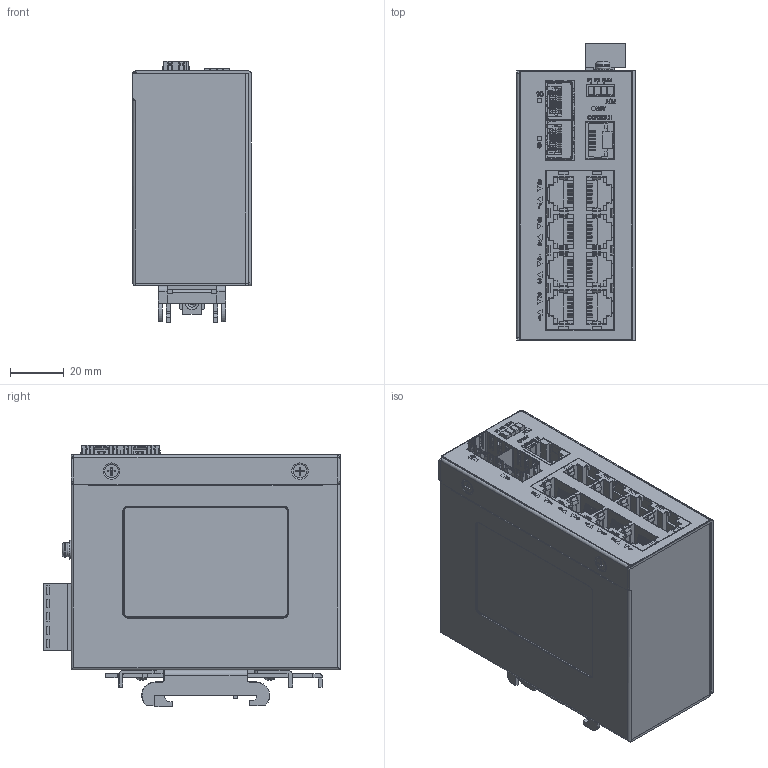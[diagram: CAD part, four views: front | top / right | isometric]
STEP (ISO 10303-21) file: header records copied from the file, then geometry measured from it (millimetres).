
FILE_DESCRIPTION(/* description */ (''),/* implementation_level */ '2;1');
FILE_NAME(/* name */ 'SFP2_ETH8_MGT_3D-STEP.stp',/* time_stamp */ '2026-06-05T10:18:42+08:00',/* author */ ('laozh'),/* organization */ (''),/* preprocessor_version */ 'ST-DEVELOPER v20.1',/* originating_system */ 'Autodesk Inventor 2026',/* authorisation */ '');
FILE_SCHEMA (('AUTOMOTIVE_DESIGN { 1 0 10303 214 3 1 1 }'));
Products named in the file (1): SFP2_ETH8_MGT_简化_1
Bounding box: 44 x 110.2 x 97.28 mm (x, y, z)
Volume: 74646.4 mm3; surface area: 95285.6 mm2
Topology: 1 solids, 1 shells, 7034 faces, 20089 edges, 12929 vertices
Faces by surface type: plane 4943, cylinder 1454, bspline 463, torus 89, cone 74, sphere 11
Full cylindrical faces by diameter (mm): 1 x5, 1.5 x2, 2 x42, 2.4 x11, 2.5 x14, 3 x16, 3.01 x2, 3.4 x2, 3.5 x5, 4 x1, 4.5 x2, 5 x4, 5.3 x1, 6.5 x2, 7 x1
Entity records: 250203 total; most frequent: CARTESIAN_POINT 59300, ORIENTED_EDGE 40170, DIRECTION 35491, EDGE_CURVE 20085, LINE 15793, VECTOR 15793, VERTEX_POINT 12929, AXIS2_PLACEMENT_3D 9849
